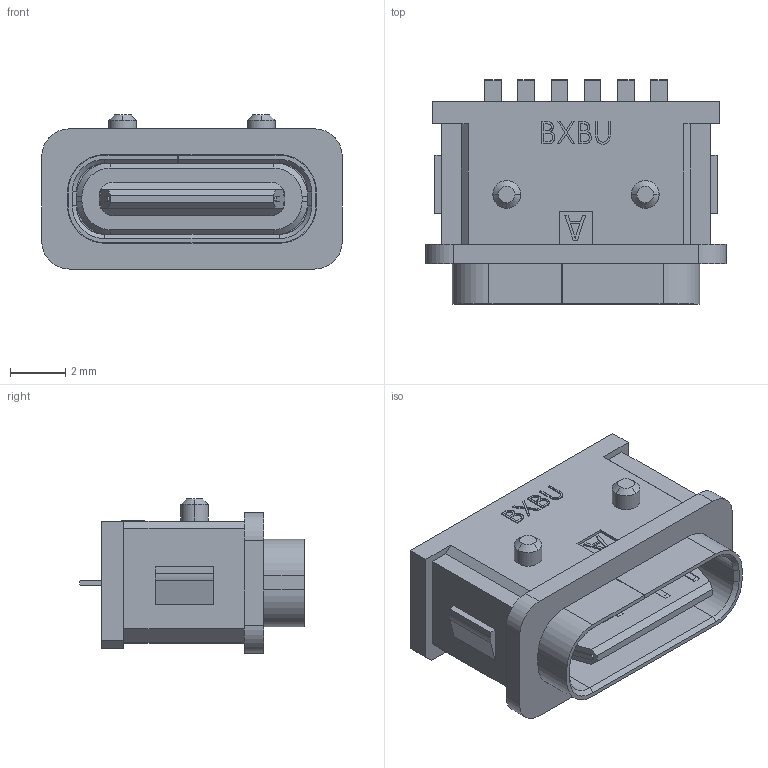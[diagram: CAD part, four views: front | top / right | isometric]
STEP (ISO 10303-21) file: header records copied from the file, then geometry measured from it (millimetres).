
FILE_DESCRIPTION (( 'STEP AP214' ), '1' );
FILE_NAME ('U5013-06PN7.3LF .STEP', '2026-05-20T08:22:11', ( '' ), ( '' ), 'SwSTEP 2.0', 'SolidWorks 2024', '' );
FILE_SCHEMA (( 'AUTOMOTIVE_DESIGN' ));
Length unit declared in the file: millimetre
Products named in the file (1): U5013-06PN7.3LF 
Bounding box: 10.84 x 8.12 x 5.56 mm (x, y, z)
Volume: 214.6 mm3; surface area: 747.6 mm2
Topology: 1 solids, 1 shells, 574 faces, 1574 edges, 1029 vertices
Faces by surface type: plane 435, cylinder 87, cone 27, bspline 25
Entity records: 19434 total; most frequent: CARTESIAN_POINT 4855, ORIENTED_EDGE 3148, DIRECTION 2809, EDGE_CURVE 1574, VECTOR 1287, LINE 1287, VERTEX_POINT 1029, AXIS2_PLACEMENT_3D 761
